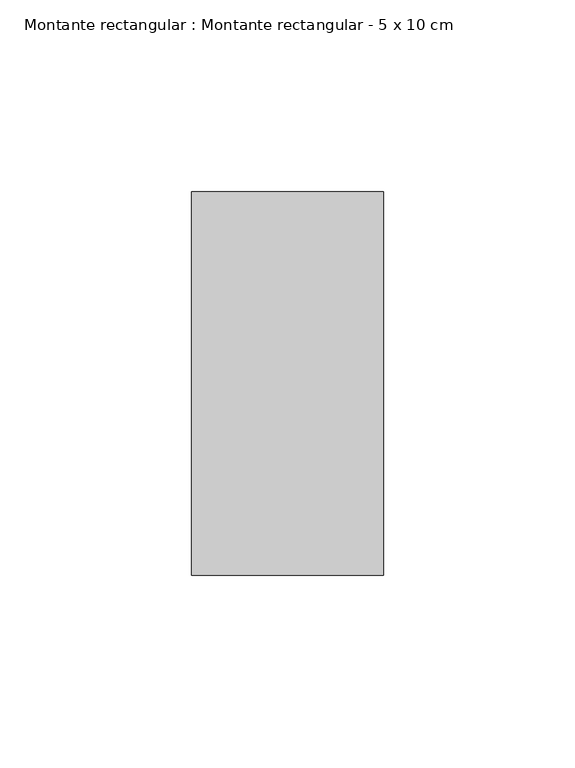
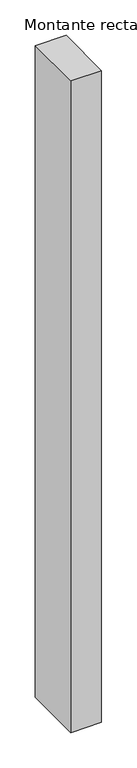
"""IFC4 building model written with IfcOpenShell, lengths in millimetres: member geometry, Montante rectangular : Montante rectangular - 5 x 10 cm."""

import ifcopenshell
import ifcopenshell.guid

model = None  # the IFC model being written
_history = None  # IfcOwnerHistory: only IFC2X3 demands one
_inside = {}  # id of a spatial element -> (the spatial element, [elements in it])
_under = {}  # id of a project, library or spatial element -> (it, [spatial elements below it])
_declared = {}  # id of a project -> (the project, [libraries it declares])
_typed = {}  # id of a type object -> (the type object, [elements of that type])
_made_of = {}  # id of a material, layer set ... -> (it, [elements and type objects made of it])


def new_model(schema):
    """Start an empty IFC model of exactly this schema.

    Asked for "IFC4X3", IfcOpenShell would pick the latest addendum, in which some entities
    have other attributes; the version numbers below select the first issue.
    IFC2X3 requires an IfcOwnerHistory on every rooted entity: one is made here for all.
    """
    global model, _history
    if schema == "IFC4X3":
        model = ifcopenshell.file(schema_version=(4, 3, 0, 0))
    else:
        model = ifcopenshell.file(schema=schema)
    _inside.clear()
    _under.clear()
    _declared.clear()
    _typed.clear()
    _made_of.clear()
    _history = None
    if model.schema == "IFC2X3":
        org = make("IfcOrganization", Name="unknown")
        user = make(
            "IfcPersonAndOrganization",
            ThePerson=make("IfcPerson", FamilyName="unknown"),
            TheOrganization=org,
        )
        app = make(
            "IfcApplication",
            ApplicationDeveloper=org,
            Version="unknown",
            ApplicationFullName="unknown",
            ApplicationIdentifier="unknown",
        )
        _history = make(
            "IfcOwnerHistory",
            OwningUser=user,
            OwningApplication=app,
            ChangeAction="ADDED",
            CreationDate=0,
        )
    return model


def make(cls, **values):
    """One entity of the class cls with the attributes given. An attribute that is None is left unset."""
    return model.create_entity(
        cls, **{name: value for name, value in values.items() if value is not None}
    )


def rooted(cls, **values):
    """An entity with a GlobalId (a new one), such as an element, a storey or a relation."""
    return make(cls, GlobalId=ifcopenshell.guid.new(), OwnerHistory=_history, **values)


def si_unit(unit_type, name, prefix=None):
    """IfcSIUnit, for example si_unit("LENGTHUNIT", "METRE", prefix="MILLI")."""
    return make("IfcSIUnit", UnitType=unit_type, Prefix=prefix, Name=name)


def assignment(units):
    """IfcUnitAssignment: the units of a project."""
    return None if units is None else make("IfcUnitAssignment", Units=units)


def point(xyz):
    """IfcCartesianPoint."""
    return None if xyz is None else make("IfcCartesianPoint", Coordinates=xyz)


def direction(xyz):
    """IfcDirection."""
    return None if xyz is None else make("IfcDirection", DirectionRatios=xyz)


def frame(location, z_axis=None, x_axis=None):
    """IfcAxis2Placement3D, a coordinate frame: its origin and axes. An axis left out is left unset."""
    return make(
        "IfcAxis2Placement3D",
        Location=point(location),
        Axis=direction(z_axis),
        RefDirection=direction(x_axis),
    )


def origin():
    """The frame at (0, 0, 0) with its axes left unset."""
    return frame((0.0, 0.0, 0.0))


def place(relative_to, where):
    """IfcLocalPlacement: puts the frame where relative to a parent placement (None: the world)."""
    return make(
        "IfcLocalPlacement", PlacementRelTo=relative_to, RelativePlacement=where
    )


def context(
    kind, dimensions, precision=None, world=None, true_north=None, identifier=None
):
    """IfcGeometricRepresentationContext, for example the 3D "Model" context."""
    return make(
        "IfcGeometricRepresentationContext",
        ContextIdentifier=identifier,
        ContextType=kind,
        CoordinateSpaceDimension=dimensions,
        Precision=precision,
        WorldCoordinateSystem=world,
        TrueNorth=true_north,
    )


def project(units=None, contexts=None):
    """IfcProject with its units and contexts."""
    return rooted(
        "IfcProject",
        Name="project",
        RepresentationContexts=contexts,
        UnitsInContext=assignment(units),
    )


def spatial(cls, under=None, at=None, **own):
    """A site, building, storey or space (cls), placed at a placement, below another one or the project."""
    s = rooted(cls, ObjectPlacement=at, **own)
    if under is not None:
        _under.setdefault(under.id(), (under, []))[1].append(s)
    return s


def polyline(points):
    """IfcPolyline through the points."""
    return make("IfcPolyline", Points=[point(p) for p in points])


def outline(outer, holes=None, kind="AREA"):
    """IfcArbitraryClosedProfileDef: a profile drawn as a closed curve; with holes, ...WithVoids."""
    if holes is None:
        return make("IfcArbitraryClosedProfileDef", ProfileType=kind, OuterCurve=outer)
    return make(
        "IfcArbitraryProfileDefWithVoids",
        ProfileType=kind,
        OuterCurve=outer,
        InnerCurves=holes,
    )


def extrude(swept, where, along, depth):
    """IfcExtrudedAreaSolid: the profile swept, set in the frame where, extruded along a direction by depth."""
    return make(
        "IfcExtrudedAreaSolid",
        SweptArea=swept,
        Position=where,
        ExtrudedDirection=direction(along),
        Depth=depth,
    )


def shape(context_of_items, identifier, shape_type, items):
    """IfcShapeRepresentation: the items that make up one representation, for example the "Body"."""
    return make(
        "IfcShapeRepresentation",
        ContextOfItems=context_of_items,
        RepresentationIdentifier=identifier,
        RepresentationType=shape_type,
        Items=items,
    )


def source(mapping_origin, context_of_items, identifier, shape_type, items):
    """IfcRepresentationMap: a shape defined once, which mapped items show again and again."""
    return make(
        "IfcRepresentationMap",
        MappingOrigin=mapping_origin,
        MappedRepresentation=shape(context_of_items, identifier, shape_type, items),
    )


def transform(
    local_origin,
    x_axis=None,
    y_axis=None,
    z_axis=None,
    scale=None,
    scale2=None,
    scale3=None,
    uniform=True,
):
    """IfcCartesianTransformationOperator3D, or its non-uniform kind. x_axis, y_axis, z_axis: its Axis1, 2, 3."""
    if uniform:
        return make(
            "IfcCartesianTransformationOperator3D",
            Axis1=direction(x_axis),
            Axis2=direction(y_axis),
            LocalOrigin=point(local_origin),
            Scale=scale,
            Axis3=direction(z_axis),
        )
    return make(
        "IfcCartesianTransformationOperator3DnonUniform",
        Axis1=direction(x_axis),
        Axis2=direction(y_axis),
        LocalOrigin=point(local_origin),
        Scale=scale,
        Axis3=direction(z_axis),
        Scale2=scale2,
        Scale3=scale3,
    )


def mapped(mapping_source, mapping_target):
    """IfcMappedItem: shows the shape of a source again, moved by a transform."""
    return make(
        "IfcMappedItem", MappingSource=mapping_source, MappingTarget=mapping_target
    )


def made_of(thing, what):
    """Note that an element or type object is made of a material, layer set ...; save() writes the relation."""
    if what is not None:
        _made_of.setdefault(what.id(), (what, []))[1].append(thing)
    return thing


def element(
    cls,
    number,
    at=None,
    inside=None,
    cuts=None,
    type_object=None,
    material=None,
    context=None,
    identifier="Body",
    shape_type=None,
    held_by="IfcProductDefinitionShape",
    body=None,
    shapes=None,
    **own,
):
    """One element of the class cls, such as IfcWall. Its Tag is "e" and its number.

    at: its placement. inside: the storey or other place that contains it. cuts: it is an
    opening in that element (IfcRelVoidsElement). A single representation is given by context,
    identifier, shape_type and body (its items); several are given by shapes. held_by: the class
    of the entity that holds the representations. save() writes the other relations.
    """
    e = rooted(cls, Tag="e%d" % number, ObjectPlacement=at, **own)
    if body is not None:
        shapes = [shape(context, identifier, shape_type, body)]
    if shapes is not None:
        e.Representation = make(held_by, Representations=shapes)
    if inside is not None:
        _inside.setdefault(inside.id(), (inside, []))[1].append(e)
    if cuts is not None:
        rooted(
            "IfcRelVoidsElement", RelatingBuildingElement=cuts, RelatedOpeningElement=e
        )
    if type_object is not None:
        _typed.setdefault(type_object.id(), (type_object, []))[1].append(e)
    return made_of(e, material)


def aggregate(whole, parts):
    """IfcRelAggregates: a whole, such as a stair, and the parts it consists of."""
    return rooted("IfcRelAggregates", RelatingObject=whole, RelatedObjects=parts)


def save(model, path):
    """Write the relations noted so far, then the file.

    IfcRelAggregates (storeys below a building ...), IfcRelContainedInSpatialStructure (elements
    in a storey), IfcRelDefinesByType, IfcRelAssociatesMaterial and IfcRelDeclares: one each for
    every whole, place, type object, material and project.
    """
    for whole, parts in _under.values():
        aggregate(whole, parts)
    for where, things in _inside.values():
        rooted(
            "IfcRelContainedInSpatialStructure",
            RelatedElements=things,
            RelatingStructure=where,
        )
    for kind, things in _typed.values():
        rooted("IfcRelDefinesByType", RelatedObjects=things, RelatingType=kind)
    for what, things in _made_of.values():
        rooted("IfcRelAssociatesMaterial", RelatedObjects=things, RelatingMaterial=what)
    for by, libraries in _declared.values():
        rooted("IfcRelDeclares", RelatingContext=by, RelatedDefinitions=libraries)
    model.write(path)


def montante_rectangular_montante_rectangular_5_x_10_cm_ee9ff7ea(model_context):
    return source(origin(), model_context, "Body", "SweptSolid", [
        extrude(outline(polyline([(25.0, 50.0), (25.0, -50.0), (-25.0, -50.0), (-25.0, 50.0), (25.0, 50.0)])), frame((0.0, 0.0, -1125.0), z_axis=(0.0, 0.0, 1.0), x_axis=(1.0, 0.0, 0.0)), (0.0, 0.0, 1.0), 1125.0),
    ])


if __name__ == "__main__":
    model = new_model("IFC4")
    model_context = context("Model", 3, world=origin())
    ifc_project = project(units=[si_unit("LENGTHUNIT", "METRE", prefix="MILLI")], contexts=[model_context])
    site = spatial("IfcSite", under=ifc_project)
    building = spatial("IfcBuilding", under=site)
    placement = place(None, origin())
    montante_rectangular_montante_rectangular_5_x_10_cm_shape = montante_rectangular_montante_rectangular_5_x_10_cm_ee9ff7ea(model_context)
    element("IfcMember", 1, ObjectType="Montante rectangular : Montante rectangular - 5 x 10 cm", at=placement, inside=building, context=model_context, shape_type="MappedRepresentation", body=[
        mapped(montante_rectangular_montante_rectangular_5_x_10_cm_shape, transform((0.0, 0.0, 0.0), x_axis=(1.0, 0.0, 0.0), y_axis=(0.0, 1.0, 0.0), z_axis=(0.0, 0.0, 1.0))),
    ])
    save(model, "model.ifc")
